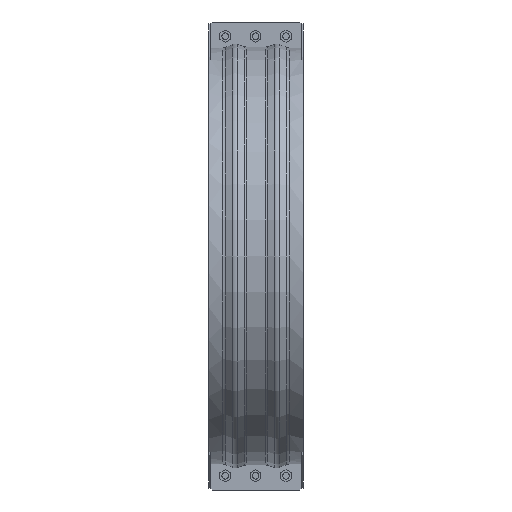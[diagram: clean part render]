
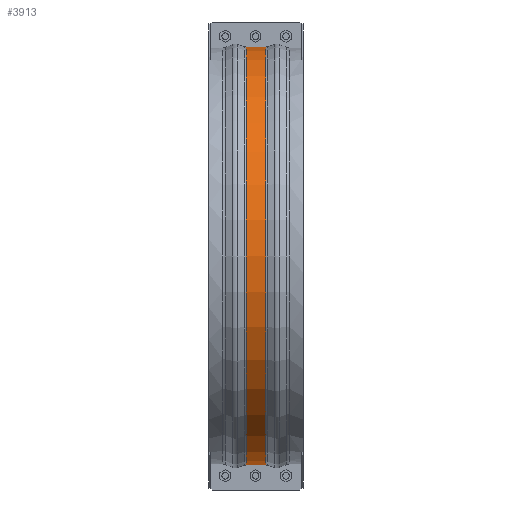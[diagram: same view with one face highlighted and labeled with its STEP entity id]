
A CAD part, front view. The second image highlights one B-rep face of the part: STEP entity #3913.
In plain terms, the highlighted cylindrical face has radius 698.802 mm (diameter 1397.6 mm), a partial arc.
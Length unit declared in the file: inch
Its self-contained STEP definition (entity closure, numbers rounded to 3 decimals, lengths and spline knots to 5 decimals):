
#356=FACE_OUTER_BOUND('',#573,.T.);
#573=EDGE_LOOP('',(#2961,#2962,#2963,#2964));
#878=LINE('',#6057,#1251);
#886=LINE('',#6189,#1259);
#1251=VECTOR('',#4840,0.3937);
#1259=VECTOR('',#4900,0.3937);
#1495=CIRCLE('',#4189,27.51189);
#1497=CIRCLE('',#4193,27.51189);
#1752=VERTEX_POINT('',#6049);
#1753=VERTEX_POINT('',#6056);
#1768=VERTEX_POINT('',#6174);
#1770=VERTEX_POINT('',#6187);
#2187=EDGE_CURVE('',#1753,#1752,#878,.T.);
#2212=EDGE_CURVE('',#1768,#1753,#1495,.T.);
#2216=EDGE_CURVE('',#1770,#1752,#1497,.T.);
#2217=EDGE_CURVE('',#1770,#1768,#886,.T.);
#2961=ORIENTED_EDGE('',*,*,#2187,.T.);
#2962=ORIENTED_EDGE('',*,*,#2216,.F.);
#2963=ORIENTED_EDGE('',*,*,#2217,.T.);
#2964=ORIENTED_EDGE('',*,*,#2212,.T.);
#3592=CYLINDRICAL_SURFACE('',#4192,27.51189);
#3913=ADVANCED_FACE('',(#356),#3592,.T.);
#4189=AXIS2_PLACEMENT_3D('',#6175,#4889,#4890);
#4192=AXIS2_PLACEMENT_3D('',#6186,#4896,#4897);
#4193=AXIS2_PLACEMENT_3D('',#6188,#4898,#4899);
#4840=DIRECTION('',(1.,0.,0.));
#4889=DIRECTION('center_axis',(1.,0.,0.));
#4890=DIRECTION('ref_axis',(0.,0.,-1.));
#4896=DIRECTION('center_axis',(1.,0.,0.));
#4897=DIRECTION('ref_axis',(0.,-1.,0.));
#4898=DIRECTION('center_axis',(1.,0.,0.));
#4899=DIRECTION('ref_axis',(0.,0.,-1.));
#4900=DIRECTION('',(-1.,0.,0.));
#6049=CARTESIAN_POINT('',(1.31451,-0.375,-27.50933));
#6056=CARTESIAN_POINT('',(-1.31451,-0.375,-27.50933));
#6057=CARTESIAN_POINT('',(0.,-0.375,-27.50933));
#6174=CARTESIAN_POINT('',(-1.31451,-0.375,27.50933));
#6175=CARTESIAN_POINT('Origin',(-1.31451,0.,
0.));
#6186=CARTESIAN_POINT('Origin',(0.,0.,0.));
#6187=CARTESIAN_POINT('',(1.31451,-0.375,27.50933));
#6188=CARTESIAN_POINT('Origin',(1.31451,0.,0.));
#6189=CARTESIAN_POINT('',(0.,-0.375,27.50933));
